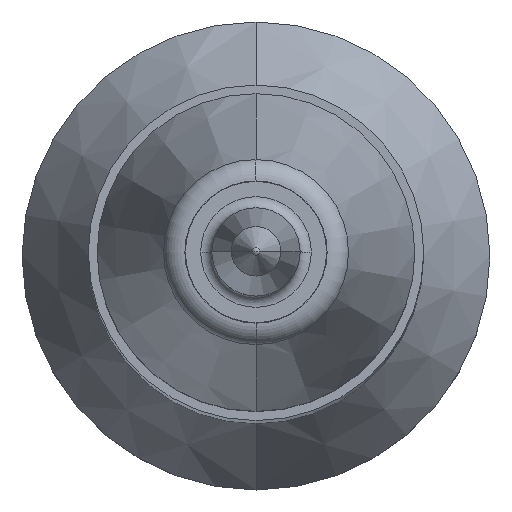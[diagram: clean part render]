
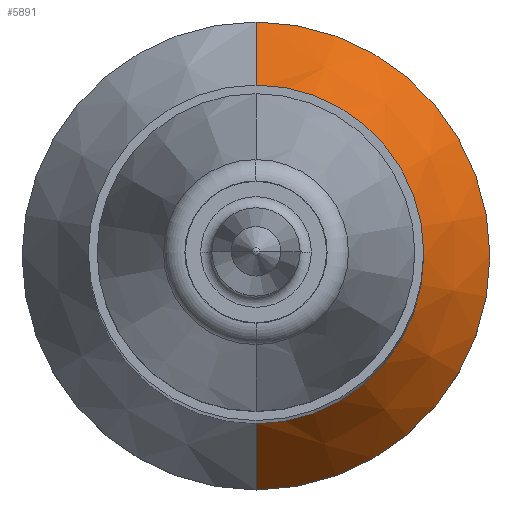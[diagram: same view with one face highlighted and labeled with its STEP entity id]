
A CAD part, top view. The second image highlights one B-rep face of the part: STEP entity #5891.
In plain terms, the highlighted conical face has half-angle 30 degrees and reference radius 2.275 mm.
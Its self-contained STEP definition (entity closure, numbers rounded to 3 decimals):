
#3248=CARTESIAN_POINT('',(0.,0.,-18.901));
#3249=DIRECTION('',(0.,0.,-1.));
#3250=DIRECTION('',(0.,1.,0.));
#3251=AXIS2_PLACEMENT_3D('',#3248,#3249,#3250);
#3256=CARTESIAN_POINT('',(0.,0.,-20.2));
#3257=DIRECTION('',(0.,0.,-1.));
#3258=DIRECTION('',(0.,1.,0.));
#3259=AXIS2_PLACEMENT_3D('',#3256,#3257,#3258);
#3264=DIRECTION('',(0.,-0.5,0.866));
#3265=VECTOR('',#3264,1.5);
#3266=CARTESIAN_POINT('',(0.,2.65,-20.2));
#3267=LINE('',#3266,#3265);
#3271=DIRECTION('',(0.,0.5,0.866));
#3272=VECTOR('',#3271,1.5);
#3273=CARTESIAN_POINT('',(0.,-2.65,-20.2));
#3274=LINE('',#3273,#3272);
#5699=CARTESIAN_POINT('',(0.,1.9,-18.901));
#5701=VERTEX_POINT('',#5699);
#5703=CARTESIAN_POINT('',(0.,-1.9,-18.901));
#5705=VERTEX_POINT('',#5703);
#5779=CARTESIAN_POINT('',(0.,2.65,-20.2));
#5781=VERTEX_POINT('',#5779);
#5783=CARTESIAN_POINT('',(0.,-2.65,-20.2));
#5785=VERTEX_POINT('',#5783);
#5877=CARTESIAN_POINT('',(0.,0.,-19.55));
#5878=DIRECTION('',(0.,0.,-1.));
#5879=DIRECTION('',(0.,-1.,0.));
#5880=AXIS2_PLACEMENT_3D('',#5877,#5878,#5879);
#5881=CONICAL_SURFACE('',#5880,2.275,30.);
#5883=ORIENTED_EDGE('',*,*,#5882,.F.);
#5885=ORIENTED_EDGE('',*,*,#5884,.T.);
#5887=ORIENTED_EDGE('',*,*,#5886,.T.);
#5888=ORIENTED_EDGE('',*,*,#5870,.F.);
#5889=EDGE_LOOP('',(#5883,#5885,#5887,#5888));
#5890=FACE_OUTER_BOUND('',#5889,.F.);
#5891=ADVANCED_FACE('',(#5890),#5881,.T.);
#3252=CIRCLE('',#3251,1.9);
#3260=CIRCLE('',#3259,2.65);
#5870=EDGE_CURVE('',#5701,#5705,#3252,.T.);
#5882=EDGE_CURVE('',#5781,#5701,#3267,.T.);
#5884=EDGE_CURVE('',#5781,#5785,#3260,.T.);
#5886=EDGE_CURVE('',#5785,#5705,#3274,.T.);
